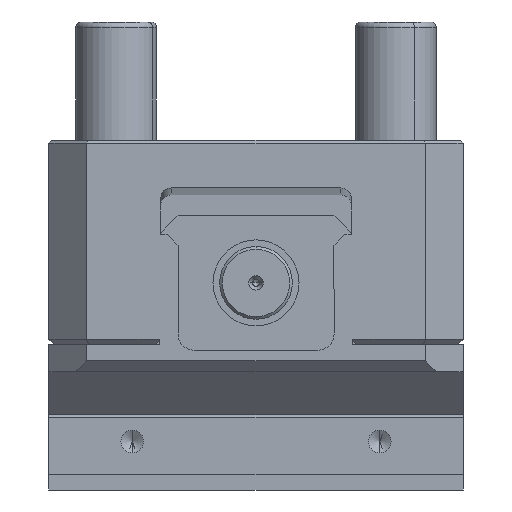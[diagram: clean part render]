
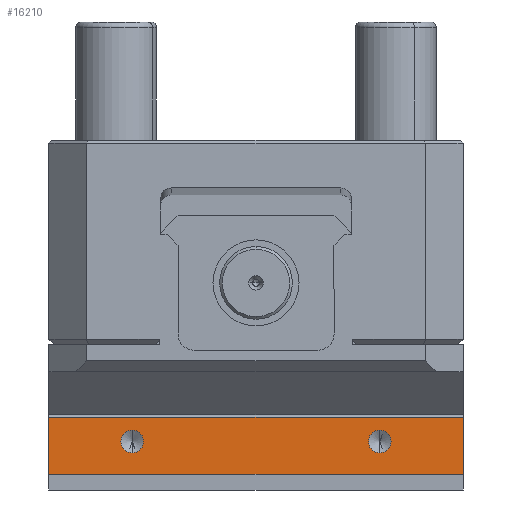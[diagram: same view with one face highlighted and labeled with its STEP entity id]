
A CAD part, front view. The second image highlights one B-rep face of the part: STEP entity #16210.
In plain terms, the highlighted planar face has unit normal (0, -1, 0).
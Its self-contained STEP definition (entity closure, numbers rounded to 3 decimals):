
#179 = EDGE_CURVE ( 'NONE', #9755, #40873, #36260, .T. ) ;
#808 = LINE ( 'NONE', #26201, #25268 ) ;
#1220 = VERTEX_POINT ( 'NONE', #21039 ) ;
#2779 = ORIENTED_EDGE ( 'NONE', *, *, #49278, .F. ) ;
#3453 = PLANE ( 'NONE',  #62422 ) ;
#3626 = CARTESIAN_POINT ( 'NONE',  ( -38.5, -41., -51.5 ) ) ;
#4633 = CARTESIAN_POINT ( 'NONE',  ( 23., -41., -56. ) ) ;
#7830 = ORIENTED_EDGE ( 'NONE', *, *, #36168, .F. ) ;
#9480 = CARTESIAN_POINT ( 'NONE',  ( 38.5, -41., -62.1 ) ) ;
#9499 = VERTEX_POINT ( 'NONE', #3626 ) ;
#9521 = DIRECTION ( 'NONE',  ( 0., 0., 1. ) ) ;
#9549 = FACE_OUTER_BOUND ( 'NONE', #25457, .T. ) ;
#9755 = VERTEX_POINT ( 'NONE', #16362 ) ;
#9840 = VECTOR ( 'NONE', #12919, 1000. ) ;
#9872 = EDGE_CURVE ( 'NONE', #47575, #9499, #35811, .T. ) ;
#10997 = VERTEX_POINT ( 'NONE', #41677 ) ;
#12919 = DIRECTION ( 'NONE',  ( 0., 0., 1. ) ) ;
#13479 = VERTEX_POINT ( 'NONE', #54211 ) ;
#14387 = DIRECTION ( 'NONE',  ( -1., 0., 0. ) ) ;
#14714 = LINE ( 'NONE', #50810, #39210 ) ;
#16210 = ADVANCED_FACE ( 'NONE', ( #35537, #59928, #9549 ), #3453, .F. ) ;
#16362 = CARTESIAN_POINT ( 'NONE',  ( 23., -41., -53.9 ) ) ;
#19821 = EDGE_LOOP ( 'NONE', ( #44132, #29451 ) ) ;
#20813 = CARTESIAN_POINT ( 'NONE',  ( -23., -41., -56. ) ) ;
#21039 = CARTESIAN_POINT ( 'NONE',  ( -23., -41., -58.1 ) ) ;
#21301 = DIRECTION ( 'NONE',  ( 1., 0., 0. ) ) ;
#21740 = AXIS2_PLACEMENT_3D ( 'NONE', #27812, #61978, #32777 ) ;
#22056 = LINE ( 'NONE', #9480, #46562 ) ;
#24793 = CIRCLE ( 'NONE', #53660, 2.1 ) ;
#25268 = VECTOR ( 'NONE', #21301, 1000. ) ;
#25457 = EDGE_LOOP ( 'NONE', ( #33358, #2779, #44719, #7830 ) ) ;
#25716 = DIRECTION ( 'NONE',  ( 0., 0., 1. ) ) ;
#26201 = CARTESIAN_POINT ( 'NONE',  ( -38.5, -41., -51.5 ) ) ;
#27812 = CARTESIAN_POINT ( 'NONE',  ( -23., -41., -56. ) ) ;
#28002 = CARTESIAN_POINT ( 'NONE',  ( -38.5, -41., -65. ) ) ;
#29153 = DIRECTION ( 'NONE',  ( 0., 0., 1. ) ) ;
#29231 = DIRECTION ( 'NONE',  ( 0., -1., 0. ) ) ;
#29439 = CARTESIAN_POINT ( 'NONE',  ( 23., -41., -56. ) ) ;
#29451 = ORIENTED_EDGE ( 'NONE', *, *, #52363, .F. ) ;
#29993 = VERTEX_POINT ( 'NONE', #56650 ) ;
#31836 = CIRCLE ( 'NONE', #46259, 2.1 ) ;
#32777 = DIRECTION ( 'NONE',  ( 0., 0., 1. ) ) ;
#32939 = DIRECTION ( 'NONE',  ( 0., 0., -1. ) ) ;
#33358 = ORIENTED_EDGE ( 'NONE', *, *, #9872, .F. ) ;
#35537 = FACE_BOUND ( 'NONE', #41559, .T. ) ;
#35811 = LINE ( 'NONE', #37096, #9840 ) ;
#36168 = EDGE_CURVE ( 'NONE', #9499, #29993, #808, .T. ) ;
#36260 = CIRCLE ( 'NONE', #52445, 2.1 ) ;
#37096 = CARTESIAN_POINT ( 'NONE',  ( -38.5, -41., -65. ) ) ;
#37711 = EDGE_CURVE ( 'NONE', #40873, #9755, #31836, .T. ) ;
#38814 = DIRECTION ( 'NONE',  ( 0., -1., 0. ) ) ;
#39210 = VECTOR ( 'NONE', #55713, 1000. ) ;
#40873 = VERTEX_POINT ( 'NONE', #52506 ) ;
#41242 = ORIENTED_EDGE ( 'NONE', *, *, #179, .F. ) ;
#41559 = EDGE_LOOP ( 'NONE', ( #41242, #54546 ) ) ;
#41677 = CARTESIAN_POINT ( 'NONE',  ( -23., -41., -53.9 ) ) ;
#43981 = EDGE_CURVE ( 'NONE', #13479, #29993, #14714, .T. ) ;
#44132 = ORIENTED_EDGE ( 'NONE', *, *, #52547, .F. ) ;
#44719 = ORIENTED_EDGE ( 'NONE', *, *, #43981, .T. ) ;
#46259 = AXIS2_PLACEMENT_3D ( 'NONE', #4633, #38814, #9521 ) ;
#46562 = VECTOR ( 'NONE', #14387, 1000. ) ;
#47575 = VERTEX_POINT ( 'NONE', #51688 ) ;
#49278 = EDGE_CURVE ( 'NONE', #13479, #47575, #22056, .T. ) ;
#50810 = CARTESIAN_POINT ( 'NONE',  ( 38.5, -41., -65. ) ) ;
#51688 = CARTESIAN_POINT ( 'NONE',  ( -38.5, -41., -62.1 ) ) ;
#52363 = EDGE_CURVE ( 'NONE', #1220, #10997, #24793, .T. ) ;
#52445 = AXIS2_PLACEMENT_3D ( 'NONE', #29439, #29231, #29153 ) ;
#52506 = CARTESIAN_POINT ( 'NONE',  ( 23., -41., -58.1 ) ) ;
#52547 = EDGE_CURVE ( 'NONE', #10997, #1220, #62146, .T. ) ;
#53660 = AXIS2_PLACEMENT_3D ( 'NONE', #20813, #54968, #25716 ) ;
#54211 = CARTESIAN_POINT ( 'NONE',  ( 38.5, -41., -62.1 ) ) ;
#54546 = ORIENTED_EDGE ( 'NONE', *, *, #37711, .F. ) ;
#54968 = DIRECTION ( 'NONE',  ( 0., -1., 0. ) ) ;
#55713 = DIRECTION ( 'NONE',  ( 0., 0., 1. ) ) ;
#56650 = CARTESIAN_POINT ( 'NONE',  ( 38.5, -41., -51.5 ) ) ;
#59928 = FACE_BOUND ( 'NONE', #19821, .T. ) ;
#61978 = DIRECTION ( 'NONE',  ( 0., -1., 0. ) ) ;
#62144 = DIRECTION ( 'NONE',  ( 0., 1., 0. ) ) ;
#62146 = CIRCLE ( 'NONE', #21740, 2.1 ) ;
#62422 = AXIS2_PLACEMENT_3D ( 'NONE', #28002, #62144, #32939 ) ;
